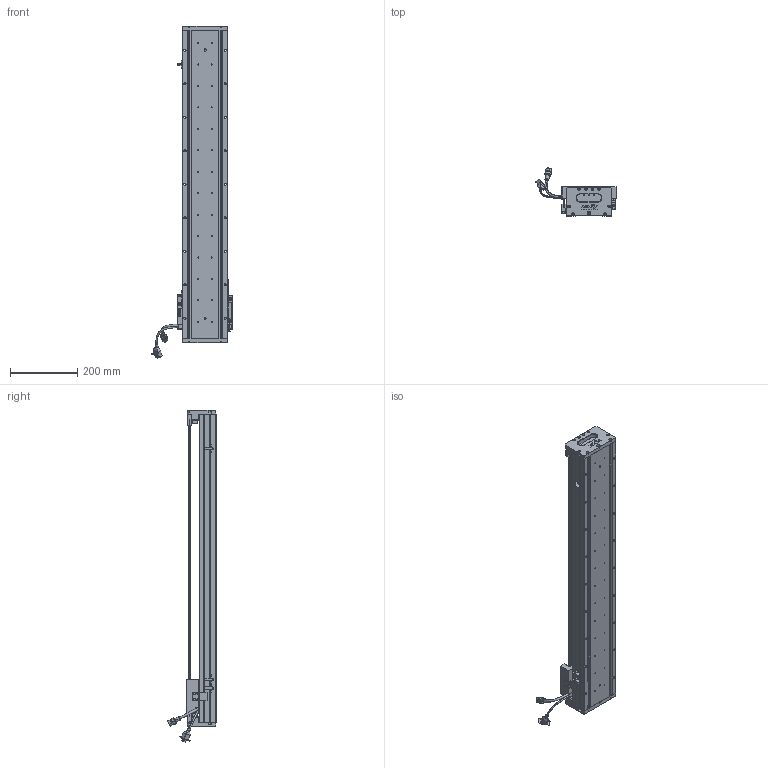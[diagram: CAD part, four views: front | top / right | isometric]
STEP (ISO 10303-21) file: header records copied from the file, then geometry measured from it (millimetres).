
FILE_DESCRIPTION (( 'STEP AP203' ), '1' );
FILE_NAME ('Z1-RY140D-1-L500-B-K.SLDASM_0750.step', '2021-05-17T07:31:00', ( '盈信电脑' ), ( '东莞市道滘镇水果街19号' ), 'SwSTEP 2.0', 'SolidWorks 2016', '' );
FILE_SCHEMA (( 'CONFIG_CONTROL_DESIGN' ));
Length unit declared in the file: millimetre
Products named in the file (36): Z1-RY140-L500直线电机模组底座_0750; Z-RY140感应器672光电感应片; SCREW-M1.7-1; SCREW-M1.6; Z-RY140詩湍狟揤裔; 140雄赽晤鎢ん堤盄; SCREW-M1.6-3; PBU_SHEET; 140蚥薯蝶輸; SCREW-M1.7; PSLH080_PSLF2; SCREW-M1.6-2; Z-140詩湍傷裔啣; COVER; SCALE-Part-1; SEAL; HOLDER0; SCALE; Z1-RY140圉猾敕臏賑輸(21遴); Z1-RY140-L500詩湍100mm遵_0750; SCALE-Part-2; HARNESS-Part-1; Z-RY140詩湍奻揤裔; COVER-Part-1; Z1-RY140D-1-L500-B-K.SLDASM_0750; HARNESS-Part-2; SCREW-M1.6-1; LABEL-Part-1; SHIELDPLATE; 覜茼ん672; LABEL; HARNESS; SEAL-Part-1; 榋妏寠巭燃_暯_M2_2; 140-Z-臏賑輸盄裔(21遴); 080黍杅芛假蚾釱21遴
Assembly tree (41 placements, depth 4):
  Z1-RY140D-1-L500-B-K.SLDASM_0750
    Z1-RY140-L500直线电机模组底座_0750
    Z-RY140感应器672光电感应片
    Z1-RY140圉猾敕臏賑輸(21遴)
    覜茼ん672  x3
    Z1-RY140-L500詩湍100mm遵_0750
    PSLH080_PSLF2
      SCALE
        SCALE-Part-1
        SCALE-Part-2
      HARNESS
        HARNESS-Part-1
        HARNESS-Part-2
      LABEL
        LABEL-Part-1
      COVER
        COVER-Part-1
      SEAL
        SEAL-Part-1
      榋妏寠巭燃_暯_M2_2
      SHIELDPLATE
      SCREW-M1.7
      SCREW-M1.7-1
      PBU_SHEET
      SCREW-M1.6
      SCREW-M1.6-1
      SCREW-M1.6-2
      SCREW-M1.6-3
      HOLDER0
    080黍杅芛假蚾釱21遴
    140-Z-臏賑輸盄裔(21遴)
    Z-140詩湍傷裔啣  x2
    Z-RY140詩湍狟揤裔  x2
    Z-RY140詩湍奻揤裔  x2
    140蚥薯蝶輸  x2
    140雄赽晤鎢ん堤盄
Bounding box: 239.84 x 143.88 x 990.88 mm (x, y, z)
Volume: 3406287.5 mm3; surface area: 913298.6 mm2
Topology: 36 solids, 36 shells, 2802 faces, 7380 edges, 4679 vertices
Faces by surface type: cylinder 1298, plane 1120, cone 262, torus 69, bspline 53
Entity records: 81536 total; most frequent: CARTESIAN_POINT 20589, ORIENTED_EDGE 11928, DIRECTION 11784, EDGE_CURVE 5964, AXIS2_PLACEMENT_3D 4306, VERTEX_POINT 3847, LINE 3172, VECTOR 3172
